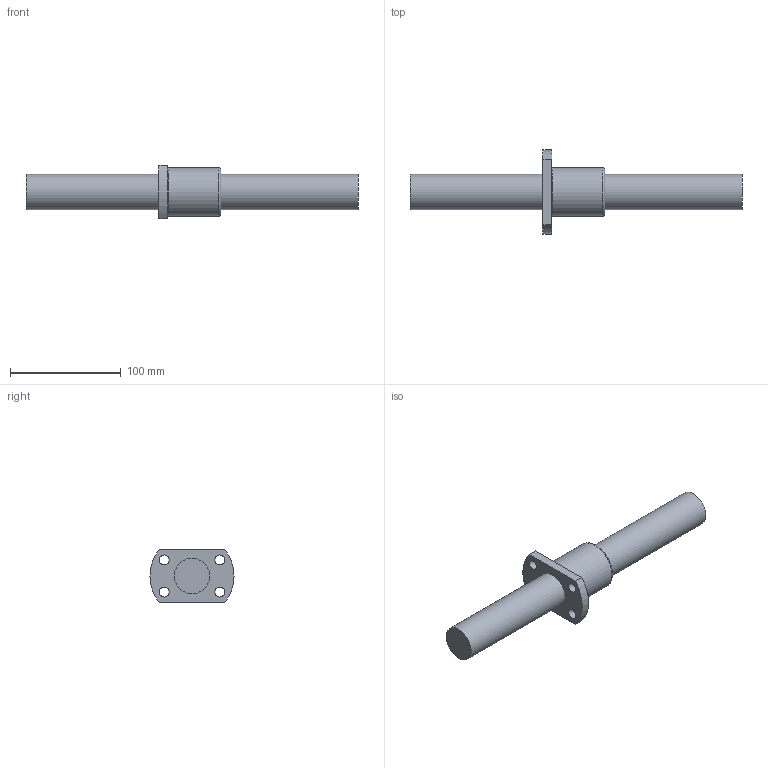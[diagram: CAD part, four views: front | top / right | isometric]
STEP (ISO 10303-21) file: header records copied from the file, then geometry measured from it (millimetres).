
FILE_DESCRIPTION((''),'2;1');
FILE_NAME('D:\製品 (図面)\カタログ用3D\ネジ関連\STEP形式\TMK\TMK32.stp','2010-06-02T15:25:40',('Tsuchiya'),(''),'Autodesk Inventor 10','Autodesk Inventor 10','');
FILE_SCHEMA(('AUTOMOTIVE_DESIGN { 1 0 10303 214 1 1 1 1 }'));
Length unit declared in the file: millimetre
Products named in the file (3): TMK32; TMK321; TMK322
Assembly tree (2 placements, depth 2):
  TMK32
    TMK321
    TMK322
Bounding box: 300 x 76 x 48 mm (x, y, z)
Volume: 294184.1 mm3; surface area: 51220.4 mm2
Topology: 2 solids, 2 shells, 18 faces, 41 edges, 28 vertices
Faces by surface type: plane 7, cylinder 5, bspline 5, torus 1
Full cylindrical faces by diameter (mm): 32 x2, 44 x1
Entity records: 628 total; most frequent: CARTESIAN_POINT 187, DIRECTION 84, ORIENTED_EDGE 56, AXIS2_PLACEMENT_3D 38, EDGE_LOOP 38, EDGE_CURVE 28, VERTEX_POINT 24, CIRCLE 20
